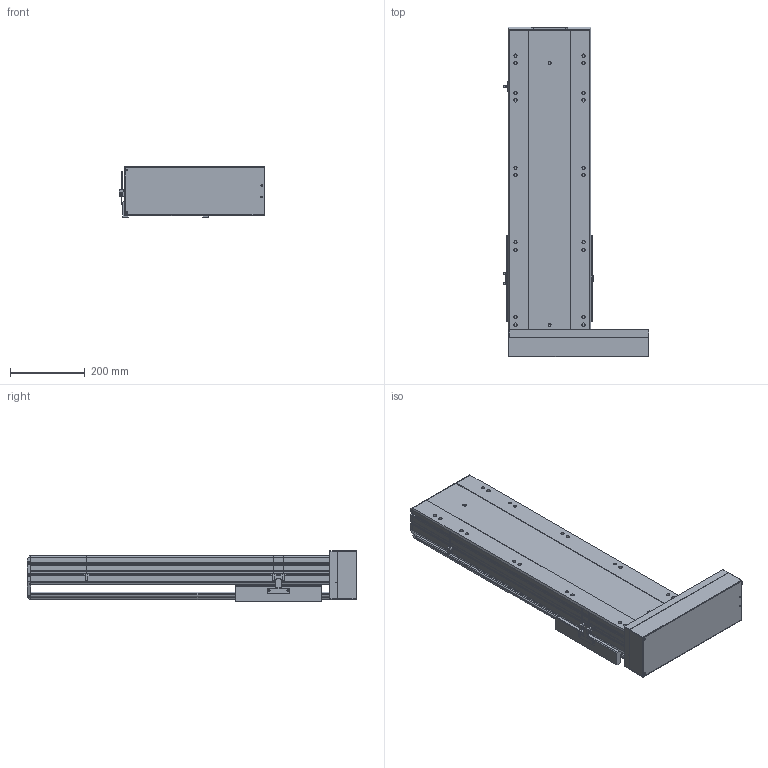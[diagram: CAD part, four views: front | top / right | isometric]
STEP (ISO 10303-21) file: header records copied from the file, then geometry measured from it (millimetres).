
FILE_DESCRIPTION (( 'STEP AP203' ), '1' );
FILE_NAME ('BTH22-L05-500-BR-PCD145-M6-95.STEP', '2022-05-07T02:33:10', ( 'CXY' ), ( 'BT' ), 'SwSTEP 2.0', 'SolidWorks 2016', '' );
FILE_SCHEMA (( 'CONFIG_CONTROL_DESIGN' ));
Length unit declared in the file: millimetre
Products named in the file (7): BTH22-BR-01; BTH22-BR-HZ; BTH22-BR-04; BTH22-BR-06-PCD145; BTH22-L05-500-BR-PCD145-M6-95; H130-PCD145; BTH22-BR-菁釱
Assembly tree (8 placements, depth 2):
  BTH22-L05-500-BR-PCD145-M6-95
    BTH22-BR-菁釱
    BTH22-BR-01
    BTH22-BR-04  x3
    BTH22-BR-HZ
    BTH22-BR-06-PCD145
    H130-PCD145
Bounding box: 389.2 x 882 x 134 mm (x, y, z)
Volume: 11229161.1 mm3; surface area: 1644866.8 mm2
Topology: 11 solids, 11 shells, 1203 faces, 3302 edges, 2145 vertices
Faces by surface type: plane 662, cylinder 409, bspline 90, cone 42
Entity records: 123205 total; most frequent: CARTESIAN_POINT 56488, ORIENTED_EDGE 14223, DIRECTION 12543, EDGE_CURVE 7617, VERTEX_POINT 4958, AXIS2_PLACEMENT_3D 4590, VECTOR 3363, LINE 3363
